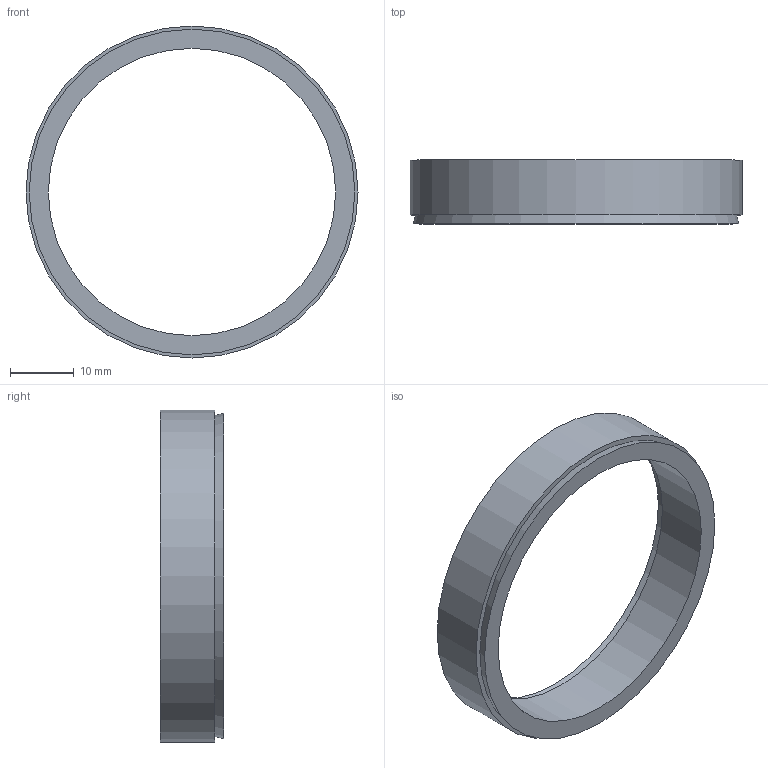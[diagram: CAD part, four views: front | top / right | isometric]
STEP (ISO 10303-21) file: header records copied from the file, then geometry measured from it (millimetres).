
FILE_DESCRIPTION( ( 'Unknown' ), '1' );
FILE_NAME( 'C:/Dokumente und Einstellungen/Sven/Desktop/homepage/cad - homepage/KBS50/KBS 50 - 45 x 52.stp', 'Unknown', ( 'Unknown' ), ( 'Unknown' ), 'XStep 1.0', 'Unknown', ' ' );
FILE_SCHEMA( ( 'automotive_design' ) );
Length unit declared in the file: millimetre
Products named in the file (1): 1
Bounding box: 52 x 10 x 52 mm (x, y, z)
Volume: 5044.9 mm3; surface area: 4233.7 mm2
Topology: 1 solids, 1 shells, 8 faces, 12 edges, 8 vertices
Faces by surface type: plane 4, cylinder 2, cone 2
Full cylindrical faces by diameter (mm): 45 x1, 52 x1
Entity records: 248 total; most frequent: DIRECTION 34, CARTESIAN_POINT 25, AXIS2_PLACEMENT_3D 17, EDGE_LOOP 16, ORIENTED_EDGE 16, FACE_OUTER_BOUND 10, STYLED_ITEM 8, PRESENTATION_STYLE_ASSIGNMENT 8
